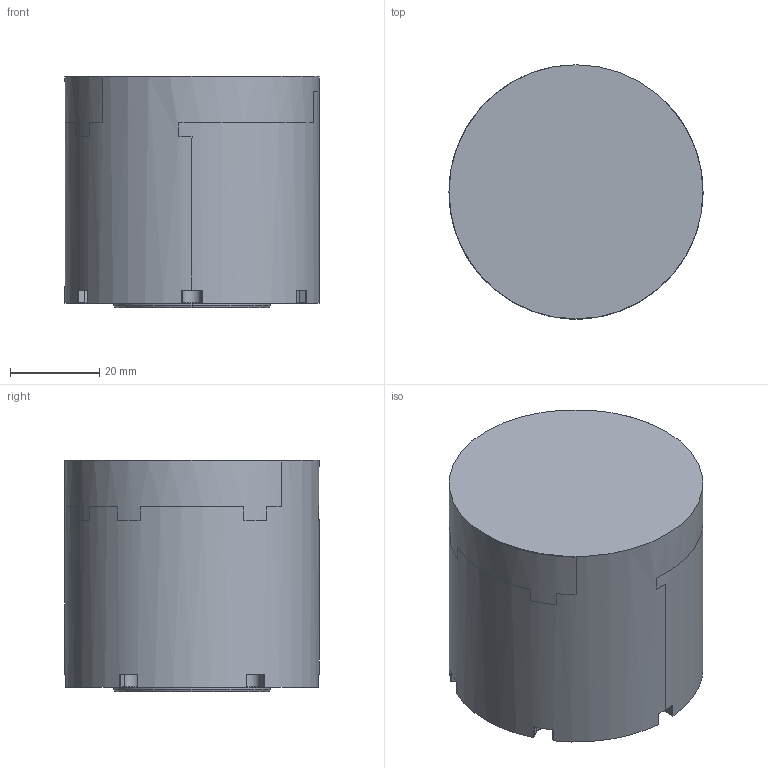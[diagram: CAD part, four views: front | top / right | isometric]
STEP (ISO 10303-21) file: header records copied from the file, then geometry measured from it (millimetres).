
FILE_DESCRIPTION((''),'2;1');
FILE_NAME('3_1_02_057_4007_SW0001','2024-10-17T14:27:16',('zhanglf'),(''),'CREO PARAMETRIC BY PTC INC, 2017110','CREO PARAMETRIC BY PTC INC, 2017110','');
FILE_SCHEMA(('CONFIG_CONTROL_DESIGN'));
Length unit declared in the file: millimetre
Products named in the file (1): 3_1_02_057_4007_SW0001
Bounding box: 57 x 57 x 52 mm (x, y, z)
Volume: 126378 mm3; surface area: 18313.1 mm2
Topology: 1 solids, 1 shells, 316 faces, 794 edges, 516 vertices
Faces by surface type: plane 110, cylinder 94, cone 70, torus 30, sphere 12
Entity records: 12380 total; most frequent: CARTESIAN_POINT 4543, DIRECTION 1735, ORIENTED_EDGE 1588, EDGE_CURVE 794, AXIS2_PLACEMENT_3D 707, VERTEX_POINT 516, CIRCLE 391, EDGE_LOOP 352
